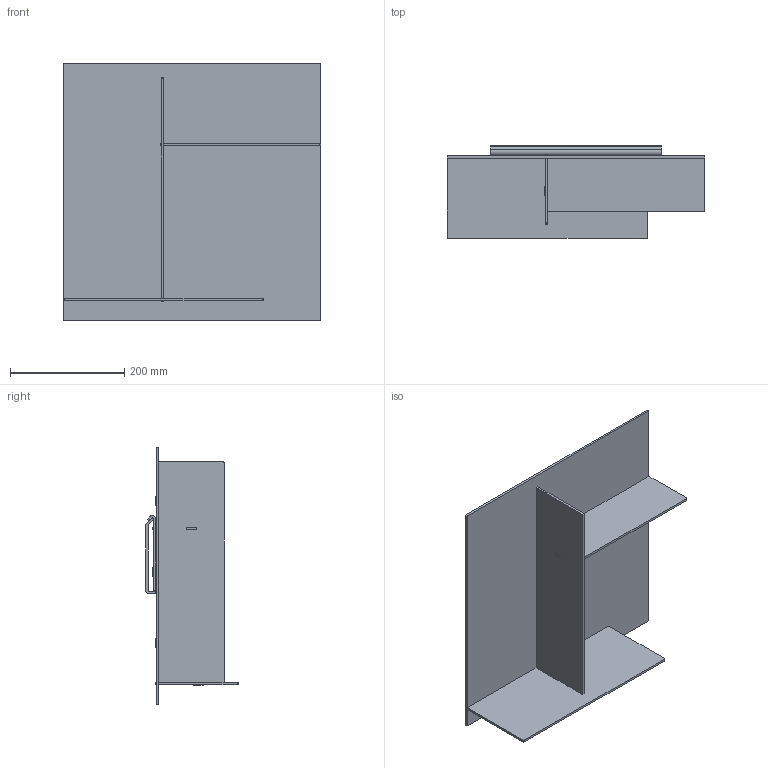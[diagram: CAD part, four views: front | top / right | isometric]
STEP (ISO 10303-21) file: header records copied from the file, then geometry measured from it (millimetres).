
FILE_DESCRIPTION(/* description */ (''),/* implementation_level */ '2;1');
FILE_NAME(/* name */ 'FRAMA_Rivet-TypeCase-3D',/* time_stamp */ '2025-10-22T11:05:30+02:00',/* author */ (''),/* organization */ (''),/* preprocessor_version */ 'ST-DEVELOPER v16.5',/* originating_system */ 'Rhino 7.38',/* authorisation */ '');
FILE_SCHEMA (('CONFIG_CONTROL_DESIGN'));
Length unit declared in the file: millimetre
Products named in the file (1): Document
Bounding box: 450 x 162.04 x 450 mm (x, y, z)
Volume: 1638622.5 mm3; surface area: 845252.5 mm2
Topology: 6 solids, 6 shells, 160 faces, 444 edges, 296 vertices
Faces by surface type: plane 150, cylinder 10
Entity records: 4476 total; most frequent: CARTESIAN_POINT 1514, ORIENTED_EDGE 888, EDGE_CURVE 444, VERTEX_POINT 296, B_SPLINE_CURVE_WITH_KNOTS 212, EDGE_LOOP 190, DIRECTION 164, AXIS2_PLACEMENT_3D 162
